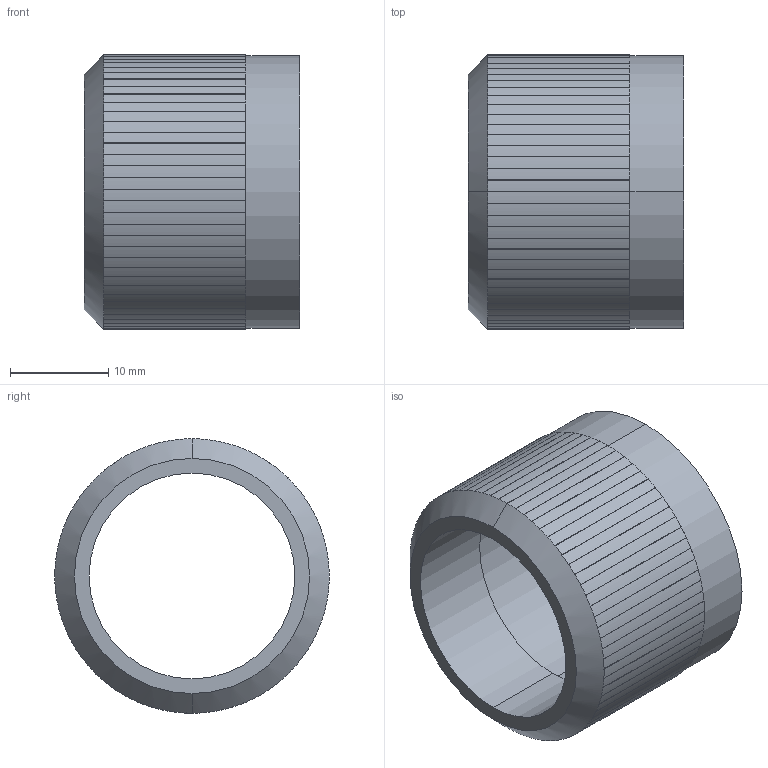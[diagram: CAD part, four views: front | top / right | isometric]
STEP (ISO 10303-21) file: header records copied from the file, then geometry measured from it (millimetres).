
FILE_DESCRIPTION (( 'STEP AP214' ), '1' );
FILE_NAME ('BUSH.STEP', '2015-07-23T06:46:18', ( '' ), ( '' ), 'SwSTEP 2.0', 'SolidWorks 2014', '' );
FILE_SCHEMA (( 'AUTOMOTIVE_DESIGN' ));
Length unit declared in the file: millimetre
Products named in the file (2): BUSH
Bounding box: 22 x 28 x 28 mm (x, y, z)
Volume: 4883.4 mm3; surface area: 3797.3 mm2
Topology: 1 solids, 1 shells, 307 faces, 905 edges, 601 vertices
Faces by surface type: plane 222, cylinder 79, cone 6
Entity records: 10387 total; most frequent: CARTESIAN_POINT 2253, ORIENTED_EDGE 1810, DIRECTION 1540, EDGE_CURVE 905, VERTEX_POINT 601, VECTOR 596, LINE 596, AXIS2_PLACEMENT_3D 472
